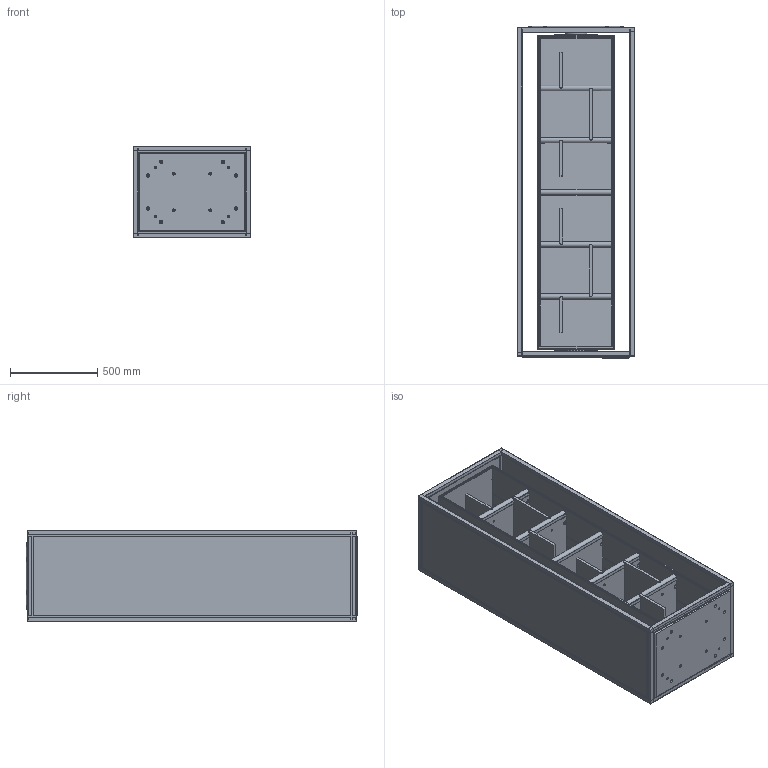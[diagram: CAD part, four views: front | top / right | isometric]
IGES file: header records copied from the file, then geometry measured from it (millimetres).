
Global section: file name: 80060; native system: Autodesk Inventor 2014; preprocessor: unknown; author: Robertom; date: 20140526.111915; units: millimetre
Bounding box: 675 x 1903.5 x 520 mm (x, y, z)
Volume: 112472339.4 mm3; surface area: 18688785.4 mm2
Topology: 65 solids, 81 shells, 2360 faces, 6768 edges, 4716 vertices
Faces by surface type: bspline 2360
